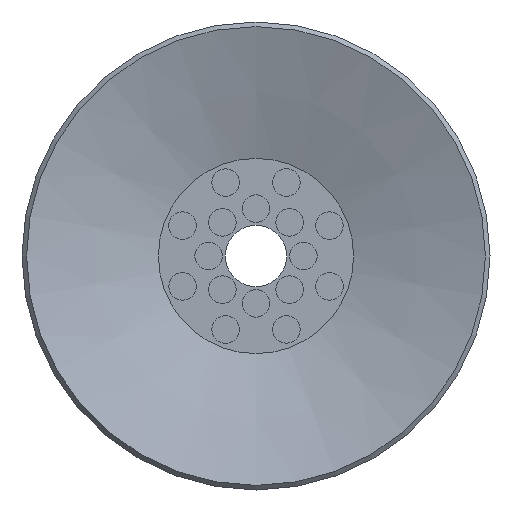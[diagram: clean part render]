
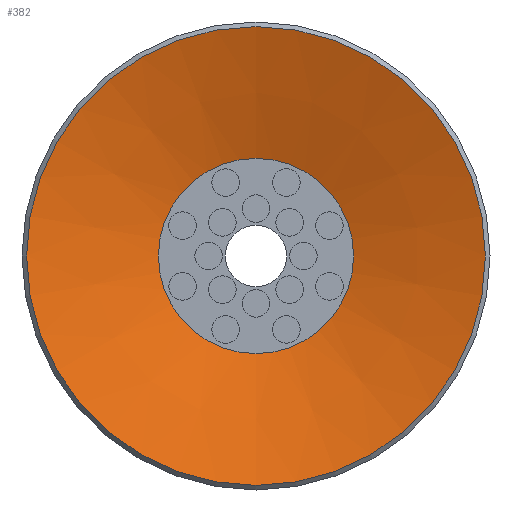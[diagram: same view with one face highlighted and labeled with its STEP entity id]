
A CAD part, front view. The second image highlights one B-rep face of the part: STEP entity #382.
In plain terms, the highlighted conical face has half-angle 72 degrees and reference radius 7.5 mm.
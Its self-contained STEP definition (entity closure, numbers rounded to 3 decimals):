
#382=ADVANCED_FACE('',(#674,#675),#676,.F.);
#674=FACE_BOUND('',#990,.T.);
#675=FACE_OUTER_BOUND('',#991,.T.);
#676=CONICAL_SURFACE('',#992,7.5,1.257);
#990=EDGE_LOOP('',(#1645));
#991=EDGE_LOOP('',(#1646));
#992=AXIS2_PLACEMENT_3D('',#1647,#1648,#1649);
#1645=ORIENTED_EDGE('',*,*,#1863,.T.);
#1646=ORIENTED_EDGE('',*,*,#1883,.F.);
#1647=CARTESIAN_POINT('',(0.0,0.,0.));
#1648=DIRECTION('',(0.0,0.,-1.0));
#1649=DIRECTION('',(0.0,1.0,0.));
#1863=EDGE_CURVE('',#2140,#2140,#2141,.T.);
#1883=EDGE_CURVE('',#2180,#2180,#2181,.T.);
#2140=VERTEX_POINT('',#2824);
#2141=CIRCLE('',#2825,3.191);
#2180=VERTEX_POINT('',#2864);
#2181=CIRCLE('',#2865,7.5);
#2824=CARTESIAN_POINT('',(0.0,-3.191,1.4));
#2825=AXIS2_PLACEMENT_3D('',#3125,#3126,#3127);
#2864=CARTESIAN_POINT('',(0.0,-7.5,0.));
#2865=AXIS2_PLACEMENT_3D('',#3185,#3186,#3187);
#3125=CARTESIAN_POINT('',(0.0,0.,1.4));
#3126=DIRECTION('',(0.0,0.,1.0));
#3127=DIRECTION('',(0.0,-1.0,0.));
#3185=CARTESIAN_POINT('',(0.0,0.,0.));
#3186=DIRECTION('',(0.0,0.,1.0));
#3187=DIRECTION('',(0.0,-1.0,0.));
